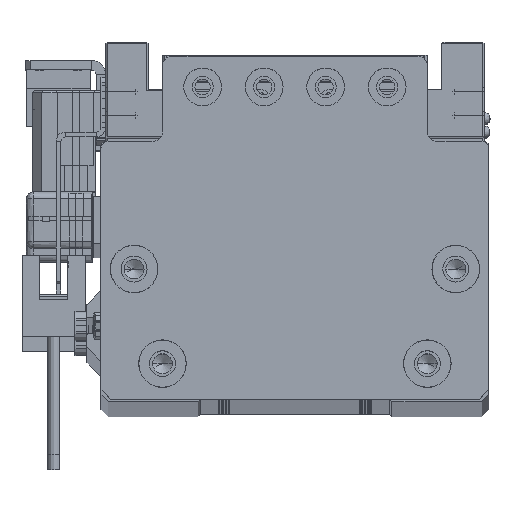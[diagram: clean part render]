
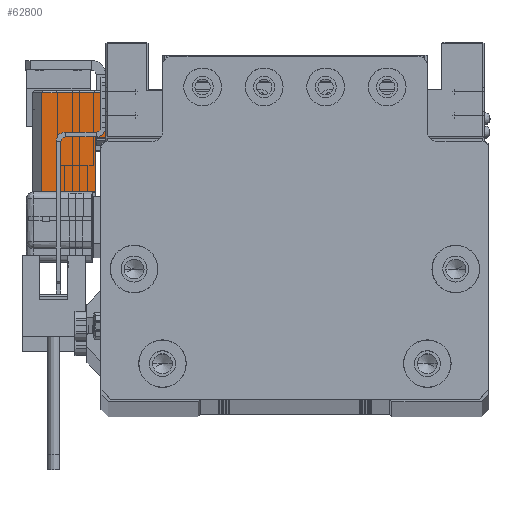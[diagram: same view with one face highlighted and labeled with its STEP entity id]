
A CAD part, top view. The second image highlights one B-rep face of the part: STEP entity #62800.
In plain terms, the highlighted planar face has unit normal (0, 0, 1) as drawn and (1, 0, 0) by its records, which use the part's own axes.
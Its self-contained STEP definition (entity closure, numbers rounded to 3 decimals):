
#3865 = DIRECTION ( 'NONE',  ( 0., -1., 0. ) ) ;
#5883 = CARTESIAN_POINT ( 'NONE',  ( 17., 10.25, -15.5 ) ) ;
#7270 = CARTESIAN_POINT ( 'NONE',  ( 17., -10.75, -2. ) ) ;
#7732 = EDGE_CURVE ( 'NONE', #32767, #70519, #50973, .T. ) ;
#8112 = DIRECTION ( 'NONE',  ( 1., 0., 0. ) ) ;
#8569 = CARTESIAN_POINT ( 'NONE',  ( 17., -10.75, -15.5 ) ) ;
#13013 = DIRECTION ( 'NONE',  ( 0., -1., 0. ) ) ;
#13980 = ORIENTED_EDGE ( 'NONE', *, *, #23758, .F. ) ;
#14668 = ORIENTED_EDGE ( 'NONE', *, *, #7732, .F. ) ;
#18763 = LINE ( 'NONE', #7270, #40750 ) ;
#21437 = CARTESIAN_POINT ( 'NONE',  ( 17., 0.75, -15.5 ) ) ;
#23758 = EDGE_CURVE ( 'NONE', #68542, #44024, #73770, .T. ) ;
#25488 = ORIENTED_EDGE ( 'NONE', *, *, #52150, .T. ) ;
#25704 = FACE_OUTER_BOUND ( 'NONE', #43910, .T. ) ;
#27216 = LINE ( 'NONE', #75308, #46107 ) ;
#28867 = DIRECTION ( 'NONE',  ( 0., 0., 1. ) ) ;
#28931 = VECTOR ( 'NONE', #49866, 1000. ) ;
#30212 = ORIENTED_EDGE ( 'NONE', *, *, #44296, .T. ) ;
#32767 = VERTEX_POINT ( 'NONE', #53319 ) ;
#34926 = ORIENTED_EDGE ( 'NONE', *, *, #41166, .T. ) ;
#37538 = VERTEX_POINT ( 'NONE', #65493 ) ;
#37740 = VECTOR ( 'NONE', #28867, 1000. ) ;
#37912 = DIRECTION ( 'NONE',  ( 0., 0., -1. ) ) ;
#39094 = CARTESIAN_POINT ( 'NONE',  ( 17., -10.75, -15.5 ) ) ;
#39468 = DIRECTION ( 'NONE',  ( 0., 0., 1. ) ) ;
#40357 = CARTESIAN_POINT ( 'NONE',  ( 17., 0.75, -15.5 ) ) ;
#40750 = VECTOR ( 'NONE', #13013, 1000. ) ;
#41166 = EDGE_CURVE ( 'NONE', #37538, #70519, #18763, .T. ) ;
#43910 = EDGE_LOOP ( 'NONE', ( #30212, #25488, #34926, #14668, #68610, #13980 ) ) ;
#44024 = VERTEX_POINT ( 'NONE', #59958 ) ;
#44028 = CARTESIAN_POINT ( 'NONE',  ( 17., -10.75, -15.5 ) ) ;
#44296 = EDGE_CURVE ( 'NONE', #68542, #74907, #71247, .T. ) ;
#44920 = EDGE_CURVE ( 'NONE', #44024, #32767, #27216, .T. ) ;
#46107 = VECTOR ( 'NONE', #3865, 1000. ) ;
#47867 = VECTOR ( 'NONE', #55447, 1000. ) ;
#49866 = DIRECTION ( 'NONE',  ( 0., 1., 0. ) ) ;
#50063 = AXIS2_PLACEMENT_3D ( 'NONE', #44028, #8112, #37912 ) ;
#50973 = LINE ( 'NONE', #39094, #73919 ) ;
#52150 = EDGE_CURVE ( 'NONE', #74907, #37538, #70096, .T. ) ;
#53319 = CARTESIAN_POINT ( 'NONE',  ( 17., -10.75, -13.3 ) ) ;
#55447 = DIRECTION ( 'NONE',  ( 0., 0., 1. ) ) ;
#58136 = CARTESIAN_POINT ( 'NONE',  ( 17., -10.75, -2. ) ) ;
#59958 = CARTESIAN_POINT ( 'NONE',  ( 17., 0.75, -13.3 ) ) ;
#62800 = ADVANCED_FACE ( 'NONE', ( #25704 ), #66590, .T. ) ;
#65493 = CARTESIAN_POINT ( 'NONE',  ( 17., 10.25, -2. ) ) ;
#66590 = PLANE ( 'NONE',  #50063 ) ;
#68542 = VERTEX_POINT ( 'NONE', #40357 ) ;
#68610 = ORIENTED_EDGE ( 'NONE', *, *, #44920, .F. ) ;
#70096 = LINE ( 'NONE', #5883, #37740 ) ;
#70519 = VERTEX_POINT ( 'NONE', #58136 ) ;
#70578 = CARTESIAN_POINT ( 'NONE',  ( 17., 10.25, -15.5 ) ) ;
#71247 = LINE ( 'NONE', #8569, #28931 ) ;
#73770 = LINE ( 'NONE', #21437, #47867 ) ;
#73919 = VECTOR ( 'NONE', #39468, 1000. ) ;
#74907 = VERTEX_POINT ( 'NONE', #70578 ) ;
#75308 = CARTESIAN_POINT ( 'NONE',  ( 17., -10.75, -13.3 ) ) ;
